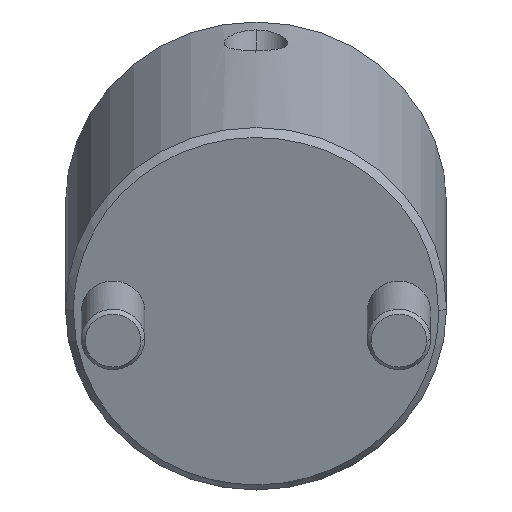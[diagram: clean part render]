
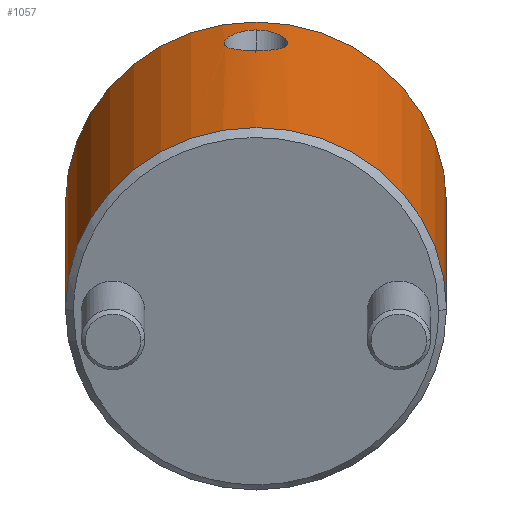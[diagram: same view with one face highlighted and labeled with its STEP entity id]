
A CAD part, front view. The second image highlights one B-rep face of the part: STEP entity #1057.
In plain terms, the highlighted cylindrical face has radius 24 mm (diameter 48 mm), a partial arc.
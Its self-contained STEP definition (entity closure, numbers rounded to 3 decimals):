
#802=CARTESIAN_POINT('Vertex',(0.,24.,1.)) ;
#805=CARTESIAN_POINT('Axis2P3D Location',(0.,0.,1.)) ;
#809=CARTESIAN_POINT('Vertex',(0.,-24.,1.)) ;
#961=CARTESIAN_POINT('Axis2P3D Location',(0.,0.,-2.25)) ;
#966=CARTESIAN_POINT('Line Origine',(0.,24.,-2.25)) ;
#970=CARTESIAN_POINT('Vertex',(0.,24.,44.)) ;
#973=CARTESIAN_POINT('Axis2P3D Location',(0.,0.,44.)) ;
#977=CARTESIAN_POINT('Vertex',(0.,-24.,44.)) ;
#980=CARTESIAN_POINT('Line Origine',(0.,-24.,-2.25)) ;
#992=CARTESIAN_POINT('Control Point',(24.,0.,40.754)) ;
#993=CARTESIAN_POINT('Control Point',(24.,0.378,40.754)) ;
#994=CARTESIAN_POINT('Control Point',(23.993,0.75,40.705)) ;
#995=CARTESIAN_POINT('Control Point',(23.978,1.114,40.608)) ;
#996=CARTESIAN_POINT('Control Point',(23.937,1.819,40.324)) ;
#997=CARTESIAN_POINT('Control Point',(23.878,2.446,39.872)) ;
#998=CARTESIAN_POINT('Control Point',(23.845,2.743,39.599)) ;
#999=CARTESIAN_POINT('Control Point',(23.795,3.142,39.132)) ;
#1000=CARTESIAN_POINT('Control Point',(23.75,3.455,38.601)) ;
#1001=CARTESIAN_POINT('Control Point',(23.736,3.55,38.417)) ;
#1002=CARTESIAN_POINT('Control Point',(23.711,3.718,38.039)) ;
#1003=CARTESIAN_POINT('Control Point',(23.691,3.842,37.645)) ;
#1004=CARTESIAN_POINT('Control Point',(23.682,3.893,37.444)) ;
#1005=CARTESIAN_POINT('Control Point',(23.669,3.971,37.04)) ;
#1006=CARTESIAN_POINT('Control Point',(23.664,4.003,36.628)) ;
#1007=CARTESIAN_POINT('Control Point',(23.663,4.007,36.425)) ;
#1008=CARTESIAN_POINT('Control Point',(23.668,3.98,35.712)) ;
#1009=CARTESIAN_POINT('Control Point',(23.696,3.811,35.025)) ;
#1010=CARTESIAN_POINT('Control Point',(23.727,3.621,34.566)) ;
#1011=CARTESIAN_POINT('Control Point',(23.795,3.162,33.804)) ;
#1012=CARTESIAN_POINT('Control Point',(23.87,2.517,33.198)) ;
#1013=CARTESIAN_POINT('Control Point',(23.903,2.199,32.968)) ;
#1014=CARTESIAN_POINT('Control Point',(23.953,1.587,32.628)) ;
#1015=CARTESIAN_POINT('Control Point',(23.985,0.917,32.43)) ;
#1016=CARTESIAN_POINT('Control Point',(23.995,0.614,32.371)) ;
#1017=CARTESIAN_POINT('Control Point',(24.,0.308,32.342)) ;
#1018=CARTESIAN_POINT('Control Point',(24.,0.,32.342)) ;
#1019=CARTESIAN_POINT('Vertex',(24.,0.,40.754)) ;
#1021=CARTESIAN_POINT('Vertex',(24.,0.,32.342)) ;
#1025=CARTESIAN_POINT('Control Point',(24.,0.,32.342)) ;
#1026=CARTESIAN_POINT('Control Point',(24.,-0.489,32.342)) ;
#1027=CARTESIAN_POINT('Control Point',(23.988,-0.97,32.415)) ;
#1028=CARTESIAN_POINT('Control Point',(23.963,-1.444,32.563)) ;
#1029=CARTESIAN_POINT('Control Point',(23.909,-2.15,32.911)) ;
#1030=CARTESIAN_POINT('Control Point',(23.844,-2.746,33.416)) ;
#1031=CARTESIAN_POINT('Control Point',(23.819,-2.952,33.626)) ;
#1032=CARTESIAN_POINT('Control Point',(23.754,-3.447,34.235)) ;
#1033=CARTESIAN_POINT('Control Point',(23.701,-3.784,34.952)) ;
#1034=CARTESIAN_POINT('Control Point',(23.677,-3.928,35.431)) ;
#1035=CARTESIAN_POINT('Control Point',(23.654,-4.06,36.347)) ;
#1036=CARTESIAN_POINT('Control Point',(23.673,-3.95,37.271)) ;
#1037=CARTESIAN_POINT('Control Point',(23.689,-3.855,37.674)) ;
#1038=CARTESIAN_POINT('Control Point',(23.723,-3.646,38.258)) ;
#1039=CARTESIAN_POINT('Control Point',(23.767,-3.341,38.798)) ;
#1040=CARTESIAN_POINT('Control Point',(23.782,-3.23,38.971)) ;
#1041=CARTESIAN_POINT('Control Point',(23.814,-2.988,39.302)) ;
#1042=CARTESIAN_POINT('Control Point',(23.847,-2.712,39.6)) ;
#1043=CARTESIAN_POINT('Control Point',(23.863,-2.568,39.737)) ;
#1044=CARTESIAN_POINT('Control Point',(23.894,-2.267,39.993)) ;
#1045=CARTESIAN_POINT('Control Point',(23.922,-1.942,40.207)) ;
#1046=CARTESIAN_POINT('Control Point',(23.935,-1.774,40.304)) ;
#1047=CARTESIAN_POINT('Control Point',(23.965,-1.34,40.52)) ;
#1048=CARTESIAN_POINT('Control Point',(23.986,-0.878,40.664)) ;
#1049=CARTESIAN_POINT('Control Point',(23.995,-0.59,40.724)) ;
#1050=CARTESIAN_POINT('Control Point',(24.,-0.297,40.754)) ;
#1051=CARTESIAN_POINT('Control Point',(24.,0.,40.754)) ;
#806=DIRECTION('Axis2P3D Direction',(0.,0.,1.)) ;
#962=DIRECTION('Axis2P3D Direction',(0.,-0.,1.)) ;
#963=DIRECTION('Axis2P3D XDirection',(0.,-1.,0.)) ;
#967=DIRECTION('Vector Direction',(0.,0.,1.)) ;
#974=DIRECTION('Axis2P3D Direction',(0.,-0.,1.)) ;
#981=DIRECTION('Vector Direction',(0.,0.,1.)) ;
#807=AXIS2_PLACEMENT_3D('Circle Axis2P3D',#805,#806,$) ;
#964=AXIS2_PLACEMENT_3D('Cylinder Axis2P3D',#961,#962,#963) ;
#975=AXIS2_PLACEMENT_3D('Circle Axis2P3D',#973,#974,$) ;
#986=ORIENTED_EDGE('',*,*,#972,.F.) ;
#987=ORIENTED_EDGE('',*,*,#979,.T.) ;
#988=ORIENTED_EDGE('',*,*,#984,.T.) ;
#989=ORIENTED_EDGE('',*,*,#811,.F.) ;
#1054=ORIENTED_EDGE('',*,*,#1023,.T.) ;
#1055=ORIENTED_EDGE('',*,*,#1052,.T.) ;
#1056=FACE_BOUND('',#1053,.T.) ;
#968=VECTOR('Line Direction',#967,1.) ;
#982=VECTOR('Line Direction',#981,1.) ;
#1057=ADVANCED_FACE('MANIFOLD_SOLID_BREP #1138',(#990,#1056),#965,.T.) ;
#991=B_SPLINE_CURVE_WITH_KNOTS('',5,(#992,#993,#994,#995,#996,#997,#998,#999,#1000,#1001,#1002,#1003,#1004,#1005,#1006,#1007,#1008,#1009,#1010,#1011,#1012,#1013,#1014,#1015,#1016,#1017,#1018),.UNSPECIFIED.,.F.,.U.,(6,3,3,3,3,3,3,3,6),(0.,2.703,5.517,6.943,8.372,9.781,13.286,16.075,18.275),.UNSPECIFIED.) ;
#1024=B_SPLINE_CURVE_WITH_KNOTS('',5,(#1025,#1026,#1027,#1028,#1029,#1030,#1031,#1032,#1033,#1034,#1035,#1036,#1037,#1038,#1039,#1040,#1041,#1042,#1043,#1044,#1045,#1046,#1047,#1048,#1049,#1050,#1051),.UNSPECIFIED.,.F.,.U.,(6,3,3,3,3,3,3,3,6),(0.,3.487,5.583,9.086,11.927,13.351,14.762,16.158,18.278),.UNSPECIFIED.) ;
#808=CIRCLE('generated circle',#807,24.) ;
#976=CIRCLE('generated circle',#975,24.) ;
#965=CYLINDRICAL_SURFACE('generated cylinder',#964,24.) ;
#811=EDGE_CURVE('',#803,#810,#808,.F.) ;
#972=EDGE_CURVE('',#971,#803,#969,.F.) ;
#979=EDGE_CURVE('',#971,#978,#976,.F.) ;
#984=EDGE_CURVE('',#978,#810,#983,.F.) ;
#1023=EDGE_CURVE('',#1020,#1022,#991,.T.) ;
#1052=EDGE_CURVE('',#1022,#1020,#1024,.T.) ;
#985=EDGE_LOOP('',(#986,#987,#988,#989)) ;
#1053=EDGE_LOOP('',(#1054,#1055)) ;
#990=FACE_OUTER_BOUND('',#985,.T.) ;
#969=LINE('Line',#966,#968) ;
#983=LINE('Line',#980,#982) ;
#803=VERTEX_POINT('',#802) ;
#810=VERTEX_POINT('',#809) ;
#971=VERTEX_POINT('',#970) ;
#978=VERTEX_POINT('',#977) ;
#1020=VERTEX_POINT('',#1019) ;
#1022=VERTEX_POINT('',#1021) ;
